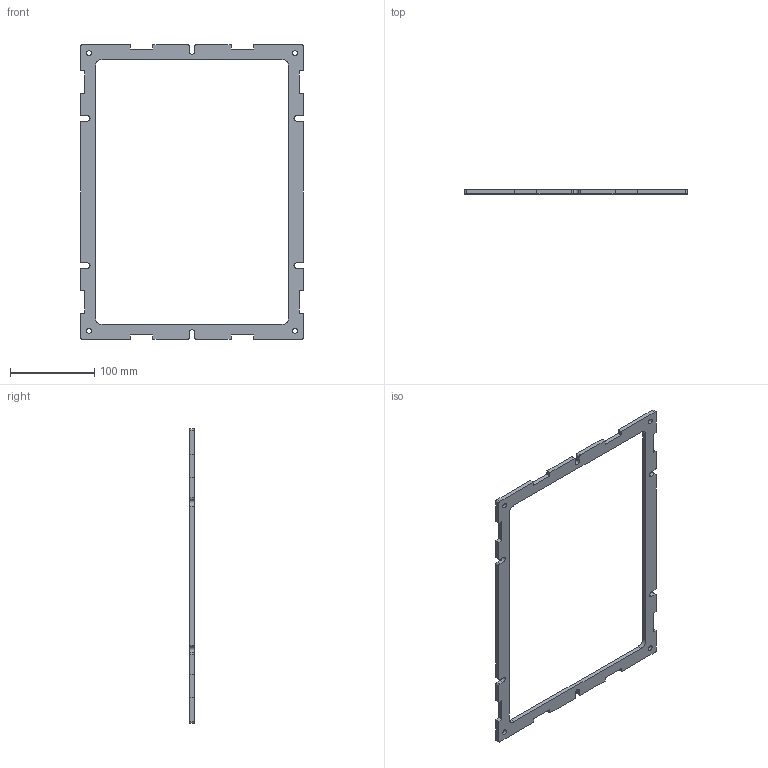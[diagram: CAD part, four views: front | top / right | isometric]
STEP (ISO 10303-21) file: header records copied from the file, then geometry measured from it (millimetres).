
FILE_DESCRIPTION((''),'2;1');
FILE_NAME('M-12-01','2020-06-01T',('Anonym'),(''),'PRO/ENGINEER BY PARAMETRIC TECHNOLOGY CORPORATION, 2012130','PRO/ENGINEER BY PARAMETRIC TECHNOLOGY CORPORATION, 2012130','');
FILE_SCHEMA(('CONFIG_CONTROL_DESIGN'));
Length unit declared in the file: millimetre
Products named in the file (1): M-12-01
Bounding box: 265 x 5 x 350 mm (x, y, z)
Volume: 93663.8 mm3; surface area: 50302.7 mm2
Topology: 1 solids, 1 shells, 94 faces, 276 edges, 184 vertices
Faces by surface type: plane 60, cylinder 34
Entity records: 3186 total; most frequent: CARTESIAN_POINT 554, ORIENTED_EDGE 552, DIRECTION 532, EDGE_CURVE 276, VECTOR 208, LINE 208, VERTEX_POINT 184, AXIS2_PLACEMENT_3D 162
